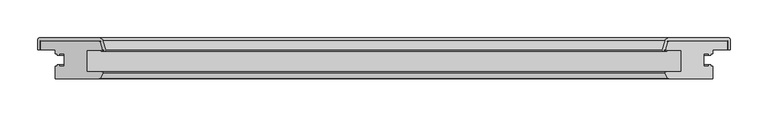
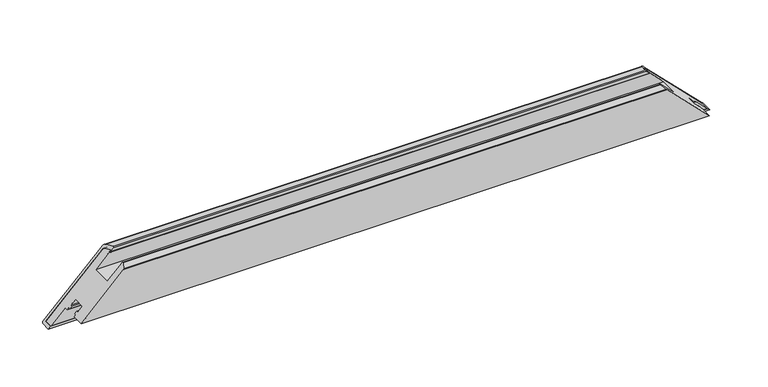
"""IFC4 building model written with IfcOpenShell, lengths in millimetres: proxy geometry, Weiku - Montante - Folha 02.2.01.018 : Weiku - Montante - Folha 02.2.01.018."""

from ifc_helpers import new_model, si_unit, frame, origin, place, context, project, spatial, polyline, ellipse_curve, source, transform, mapped, element, save
from ifc_brep_helpers import plane_surface, cylinder_surface, revolved_surface, advanced_brep


def generic_models_bf77c51b(model_context):
    return source(origin(), model_context, "Body", "AdvancedBrep", [
        advanced_brep(
        [(453.0, 50.0, 0.0), (375.9997332, 50.0, 77.0002668), (-375.9997332, 50.0, 77.0002668), (-453.0, 50.0, 0.0), (373.1019557, 47.7764571, 79.8980443), (-373.1019557, 47.7764571, 79.8980443), (370.5170371, 38.1294095, 82.4829629), (-370.5170371, 38.1294095, 82.4829629), (371.0, 37.5, 82.0), (-371.0, 37.5, 82.0), (371.8560102, 37.5, 81.1439898), (-371.8560102, 37.5, 81.1439898), (371.8560102, 36.5, 81.1439898), (-371.8560102, 36.5, 81.1439898), (367.2425588, 36.5, 85.7574412), (-367.2425588, 36.5, 85.7574412), (366.2766329, 37.758819, 86.7233671), (-366.2766329, 37.758819, 86.7233671), (369.6354501, 50.2940952, 83.3645499), (-369.6354501, 50.2940952, 83.3645499), (374.4650792, 54.0, 78.5349208), (-374.4650792, 54.0, 78.5349208), (454.0, 54.0, -1.0), (-454.0, 54.0, -1.0), (456.0, 52.0, -3.0), (-456.0, 52.0, -3.0), (456.0, 38.5, -3.0), (-456.0, 38.5, -3.0), (453.0, 38.5, 0.0), (-453.0, 38.5, 0.0)],
        [
            (0, 1),
            (1, 2),
            (2, 3),
            (3, 0),
            (1, 4, ellipse_curve(frame((375.9997332, 47.0, 77.0002668), z_axis=(0.7071067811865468, 0.0, 0.7071067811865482), x_axis=(0.7071067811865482, 0.0, -0.7071067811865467)), 4.2426407, 3.0)),
            (4, 5),
            (5, 2, ellipse_curve(frame((-375.9997332, 47.0, 77.0002668), z_axis=(-0.7071067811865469, 0.0, 0.7071067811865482), x_axis=(0.707106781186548, 0.0, 0.7071067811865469)), 4.2426407, 3.0)),
            (4, 6),
            (6, 7),
            (7, 5),
            (6, 8, ellipse_curve(frame((371.0, 38.0, 82.0), z_axis=(0.7071067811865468, 0.0, 0.7071067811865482), x_axis=(0.7071067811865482, 0.0, -0.7071067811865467)), 0.7071068, 0.5)),
            (8, 9),
            (9, 7, ellipse_curve(frame((-371.0, 38.0, 82.0), z_axis=(-0.7071067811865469, 0.0, 0.7071067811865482), x_axis=(0.707106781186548, 0.0, 0.7071067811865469)), 0.7071068, 0.5)),
            (8, 10),
            (10, 11),
            (11, 9),
            (10, 12, ellipse_curve(frame((371.8560102, 37.0, 81.1439898), z_axis=(-0.7071067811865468, 0.0, -0.7071067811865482), x_axis=(-0.7071067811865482, 0.0, 0.7071067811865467)), 0.7071068, 0.5)),
            (12, 13),
            (13, 11, ellipse_curve(frame((-371.8560102, 37.0, 81.1439898), z_axis=(0.7071067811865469, 0.0, -0.7071067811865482), x_axis=(-0.707106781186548, 0.0, -0.7071067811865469)), 0.7071068, 0.5)),
            (12, 14),
            (14, 15),
            (15, 13),
            (14, 16, ellipse_curve(frame((367.2425588, 37.5, 85.7574412), z_axis=(-0.7071067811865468, 0.0, -0.7071067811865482), x_axis=(-0.7071067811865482, 0.0, 0.7071067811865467)), 1.4142136, 1.0)),
            (16, 17),
            (17, 15, ellipse_curve(frame((-367.2425588, 37.5, 85.7574412), z_axis=(0.7071067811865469, 0.0, -0.7071067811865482), x_axis=(-0.707106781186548, 0.0, -0.7071067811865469)), 1.4142136, 1.0)),
            (16, 18),
            (18, 19),
            (19, 17),
            (18, 20, ellipse_curve(frame((374.4650792, 49.0, 78.5349208), z_axis=(-0.7071067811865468, 0.0, -0.7071067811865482), x_axis=(-0.7071067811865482, 0.0, 0.7071067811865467)), 7.0710678, 5.0)),
            (20, 21),
            (21, 19, ellipse_curve(frame((-374.4650792, 49.0, 78.5349208), z_axis=(0.7071067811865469, 0.0, -0.7071067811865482), x_axis=(-0.707106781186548, 0.0, -0.7071067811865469)), 7.0710678, 5.0)),
            (20, 22),
            (22, 23),
            (23, 21),
            (22, 24, ellipse_curve(frame((454.0, 52.0, -1.0), z_axis=(-0.7071067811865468, 0.0, -0.7071067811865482), x_axis=(-0.7071067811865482, 0.0, 0.7071067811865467)), 2.8284271, 2.0)),
            (24, 25),
            (25, 23, ellipse_curve(frame((-454.0, 52.0, -1.0), z_axis=(0.7071067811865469, 0.0, -0.7071067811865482), x_axis=(-0.707106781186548, 0.0, -0.7071067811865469)), 2.8284271, 2.0)),
            (24, 26),
            (26, 27),
            (27, 25),
            (26, 28),
            (28, 29),
            (29, 27),
            (28, 0),
            (3, 29),
        ],
        [
            plane_surface(frame((-473.0, 50.0, 0.0), z_axis=(0.0, -1.0, 0.0), x_axis=(1.0, 0.0, 0.0))),
            revolved_surface(polyline([(378.99973320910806, 50.0, 77.0002668), (-378.99973320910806, 50.0, 77.0002668)]), (-473.0, 47.0, 77.0002668), (1.0, 0.0, 0.0)),
            plane_surface(frame((-473.0, 47.7764571, 79.8980443), z_axis=(0.0, -0.2588190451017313, -0.9659258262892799), x_axis=(1.0, 0.0, 0.0))),
            revolved_surface(polyline([(371.50000001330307, 38.5, 82.0), (-371.5000000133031, 38.5, 82.0)]), (-473.0, 38.0, 82.0), (1.0, 0.0, 0.0)),
            plane_surface(frame((-473.0, 37.5, 82.0), z_axis=(0.0, 1.0, 0.0), x_axis=(1.0, 0.0, 0.0))),
            cylinder_surface(frame((-473.0, 37.0, 81.1439898), z_axis=(-1.0, 0.0, 0.0), x_axis=(0.0, 1.0, 0.0)), 0.5),
            plane_surface(frame((-473.0, 36.5, 81.1439898), z_axis=(0.0, -1.0, 0.0), x_axis=(1.0, 0.0, 0.0))),
            cylinder_surface(frame((-473.0, 37.5, 85.7574412), z_axis=(-1.0, 0.0, 0.0), x_axis=(0.0, 1.0, 0.0)), 1.0),
            plane_surface(frame((-473.0, 37.758819, 86.7233671), z_axis=(0.0, 0.25881904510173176, 0.9659258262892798), x_axis=(1.0, 0.0, 0.0))),
            cylinder_surface(frame((-473.0, 49.0, 78.5349208), z_axis=(-1.0, 0.0, 0.0), x_axis=(0.0, 1.0, 0.0)), 5.0),
            plane_surface(frame((-473.0, 54.0, 78.5349208), z_axis=(0.0, 1.0, 0.0), x_axis=(1.0, 0.0, 0.0))),
            cylinder_surface(frame((-473.0, 52.0, -1.0), z_axis=(-1.0, 0.0, 0.0), x_axis=(0.0, 1.0, 0.0)), 2.0),
            plane_surface(frame((-473.0, 52.0, -3.0), z_axis=(0.0, 0.0, -1.0), x_axis=(1.0, 0.0, 0.0))),
            plane_surface(frame((-473.0, 38.5, -3.0), z_axis=(0.0, -1.0, 0.0), x_axis=(1.0, 0.0, 0.0))),
            plane_surface(frame((-473.0, 38.5, 0.0), z_axis=(0.0, 0.0, 1.0), x_axis=(1.0, 0.0, 0.0))),
            plane_surface(frame((363.0, 0.0, 90.0), z_axis=(0.7071067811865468, 0.0, 0.7071067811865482), x_axis=(0.0, 1.0, 0.0))),
            plane_surface(frame((-481.2842712, 0.0, -28.2842712), z_axis=(-0.7071067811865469, 0.0, 0.7071067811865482), x_axis=(0.0, 1.0, 0.0))),
        ],
        [
            (0, [[1, 2, 3, 4]]),
            (1, [[5, 6, 7, -2]]),
            (2, [[8, 9, 10, -6]]),
            (3, [[11, 12, 13, -9]]),
            (4, [[14, 15, 16, -12]]),
            (5, [[17, 18, 19, -15]]),
            (6, [[20, 21, 22, -18]]),
            (7, [[23, 24, 25, -21]]),
            (8, [[26, 27, 28, -24]]),
            (9, [[29, 30, 31, -27]]),
            (10, [[32, 33, 34, -30]]),
            (11, [[35, 36, 37, -33]]),
            (12, [[38, 39, 40, -36]]),
            (13, [[41, 42, 43, -39]]),
            (14, [[44, -4, 45, -42]]),
            (15, [[-1, -44, -41, -38, -35, -32, -29, -26, -23, -20, -17, -14, -11, -8, -5]]),
            (16, [[-3, -7, -10, -13, -16, -19, -22, -25, -28, -31, -34, -37, -40, -43, -45]]),
        ],
    ),
        advanced_brep(
        [(453.0, 50.0, 0.0), (-453.0, 50.0, 0.0), (-375.9997332, 50.0, 77.0002668), (375.9997332, 50.0, 77.0002668), (453.0, 38.5, 0.0), (-453.0, 38.5, 0.0), (-374.9872264, 0.0, 78.0127736), (-433.0, 0.0, 20.0), (433.0, 0.0, 20.0), (374.9872264, 0.0, 78.0127736), (-433.0, 38.5, 20.0), (-433.0, 33.1, 20.0), (-430.8, 33.1, 22.2), (-430.8, 31.1, 22.2), (-428.0, 31.1, 25.0), (-428.0, 33.1, 25.0), (-421.5, 33.1, 31.5), (-421.5, 16.9, 31.5), (-428.0, 16.9, 25.0), (-428.0, 18.9, 25.0), (-430.8, 18.9, 22.2), (-430.8, 16.9, 22.2), (-433.0, 16.9, 20.0), (-374.0932657, 0.5518546, 78.9067343), (-370.5512796, 7.617411, 82.4487204), (-371.7134285, 9.5, 81.2865715), (-391.5, 9.5, 61.5), (-391.5, 37.5, 61.5), (-371.0, 37.5, 82.0), (-370.5170371, 38.1294095, 82.4829629), (-373.1019557, 47.7764571, 79.8980443), (373.1019557, 47.7764571, 79.8980443), (370.5170371, 38.1294095, 82.4829629), (371.0, 37.5, 82.0), (391.5, 37.5, 61.5), (391.5, 9.5, 61.5), (371.7134285, 9.5, 81.2865715), (370.5512796, 7.617411, 82.4487204), (374.0932657, 0.5518546, 78.9067343), (433.0, 16.9, 20.0), (430.8, 16.9, 22.2), (430.8, 18.9, 22.2), (428.0, 18.9, 25.0), (428.0, 16.9, 25.0), (421.5, 16.9, 31.5), (421.5, 33.1, 31.5), (428.0, 33.1, 25.0), (428.0, 31.1, 25.0), (430.8, 31.1, 22.2), (430.8, 33.1, 22.2), (433.0, 33.1, 20.0), (433.0, 38.5, 20.0)],
        [
            (0, 1),
            (1, 2),
            (2, 3),
            (3, 0),
            (0, 4),
            (4, 5),
            (5, 1),
            (6, 7),
            (7, 8),
            (8, 9),
            (9, 6),
            (5, 10),
            (10, 11),
            (11, 12),
            (12, 13),
            (13, 14),
            (14, 15),
            (15, 16),
            (16, 17),
            (17, 18),
            (18, 19),
            (19, 20),
            (20, 21),
            (21, 22),
            (22, 7),
            (6, 23, ellipse_curve(frame((-374.9872264, 1.0, 78.0127736), z_axis=(-0.7071067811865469, 0.0, 0.7071067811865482), x_axis=(-0.707106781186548, 0.0, -0.7071067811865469)), 1.4142136, 1.0)),
            (23, 24),
            (24, 25, ellipse_curve(frame((-371.7134285, 8.2, 81.2865715), z_axis=(-0.7071067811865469, 0.0, 0.7071067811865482), x_axis=(-0.707106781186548, 0.0, -0.7071067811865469)), 1.8384776, 1.3)),
            (25, 26),
            (26, 27),
            (27, 28),
            (28, 29, ellipse_curve(frame((-371.0, 38.0, 82.0), z_axis=(-0.7071067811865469, 0.0, 0.7071067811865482), x_axis=(-0.707106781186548, 0.0, -0.7071067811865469)), 0.7071068, 0.5)),
            (29, 30),
            (30, 2, ellipse_curve(frame((-375.9997332, 47.0, 77.0002668), z_axis=(-0.7071067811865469, 0.0, 0.7071067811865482), x_axis=(-0.707106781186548, 0.0, -0.7071067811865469)), 4.2426407, 3.0)),
            (3, 31, ellipse_curve(frame((375.9997332, 47.0, 77.0002668), z_axis=(0.7071067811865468, 0.0, 0.7071067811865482), x_axis=(-0.7071067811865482, 0.0, 0.7071067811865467)), 4.2426407, 3.0)),
            (31, 32),
            (32, 33, ellipse_curve(frame((371.0, 38.0, 82.0), z_axis=(0.7071067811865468, 0.0, 0.7071067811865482), x_axis=(-0.7071067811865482, 0.0, 0.7071067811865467)), 0.7071068, 0.5)),
            (33, 34),
            (34, 35),
            (35, 36),
            (36, 37, ellipse_curve(frame((371.7134285, 8.2, 81.2865715), z_axis=(0.7071067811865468, 0.0, 0.7071067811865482), x_axis=(-0.7071067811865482, 0.0, 0.7071067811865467)), 1.8384776, 1.3)),
            (37, 38),
            (38, 9, ellipse_curve(frame((374.9872264, 1.0, 78.0127736), z_axis=(0.7071067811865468, 0.0, 0.7071067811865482), x_axis=(-0.7071067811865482, 0.0, 0.7071067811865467)), 1.4142136, 1.0)),
            (8, 39),
            (39, 40),
            (40, 41),
            (41, 42),
            (42, 43),
            (43, 44),
            (44, 45),
            (45, 46),
            (46, 47),
            (47, 48),
            (48, 49),
            (49, 50),
            (50, 51),
            (51, 4),
            (38, 23),
            (37, 24),
            (36, 25),
            (35, 26),
            (34, 27),
            (33, 28),
            (32, 29),
            (31, 30),
            (51, 10),
            (50, 11),
            (49, 12),
            (48, 13),
            (47, 14),
            (46, 15),
            (45, 16),
            (44, 17),
            (43, 18),
            (42, 19),
            (41, 20),
            (40, 21),
            (39, 22),
        ],
        [
            plane_surface(frame((-453.0, 50.0, 77.0002668), z_axis=(0.0, 1.0, 0.0), x_axis=(1.0, 0.0, 0.0))),
            plane_surface(frame((-453.0, 50.0, 0.0), z_axis=(0.0, 0.0, -1.0), x_axis=(1.0, 0.0, 0.0))),
            plane_surface(frame((-453.0, 0.0, 20.0), z_axis=(0.0, -1.0, 0.0), x_axis=(1.0, 0.0, 0.0))),
            plane_surface(frame((-481.2842712, 0.0, -28.2842712), z_axis=(-0.7071067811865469, 0.0, 0.7071067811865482), x_axis=(0.0, 1.0, 0.0))),
            plane_surface(frame((363.0, 0.0, 90.0), z_axis=(0.7071067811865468, 0.0, 0.7071067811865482), x_axis=(0.0, 1.0, 0.0))),
            cylinder_surface(frame((-453.0, 1.0, 78.0127736), z_axis=(-1.0, 0.0, 0.0), x_axis=(0.0, 1.0, 0.0)), 1.0),
            plane_surface(frame((-453.0, 0.5518546, 78.9067343), z_axis=(0.0, -0.4481453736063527, 0.8939606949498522), x_axis=(1.0, 0.0, 0.0))),
            cylinder_surface(frame((-453.0, 8.2, 81.2865715), z_axis=(-1.0, 0.0, 0.0), x_axis=(0.0, 1.0, 0.0)), 1.3),
            plane_surface(frame((-453.0, 9.5, 81.2865715), z_axis=(0.0, 1.0, 0.0), x_axis=(1.0, 0.0, 0.0))),
            plane_surface(frame((-453.0, 9.5, 61.5), z_axis=(0.0, 0.0, 1.0), x_axis=(1.0, 0.0, 0.0))),
            plane_surface(frame((-453.0, 37.5, 61.5), z_axis=(0.0, -1.0, 0.0), x_axis=(1.0, 0.0, 0.0))),
            cylinder_surface(frame((-453.0, 38.0, 82.0), z_axis=(-1.0, 0.0, 0.0), x_axis=(0.0, 1.0, 0.0)), 0.5),
            plane_surface(frame((-453.0, 38.1294095, 82.4829629), z_axis=(0.0, 0.2588190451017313, 0.9659258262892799), x_axis=(1.0, 0.0, 0.0))),
            cylinder_surface(frame((-453.0, 47.0, 77.0002668), z_axis=(-1.0, 0.0, 0.0), x_axis=(0.0, 1.0, 0.0)), 3.0),
            plane_surface(frame((-453.0, 38.5, 0.0), z_axis=(0.0, -1.0, 0.0), x_axis=(1.0, 0.0, 0.0))),
            plane_surface(frame((-453.0, 38.5, 20.0), z_axis=(0.0, 0.0, -1.0), x_axis=(1.0, 0.0, 0.0))),
            plane_surface(frame((-453.0, 33.1, 20.0), z_axis=(0.0, -1.0, 0.0), x_axis=(1.0, 0.0, 0.0))),
            plane_surface(frame((-453.0, 33.1, 22.2), z_axis=(0.0, 0.0, -1.0), x_axis=(1.0, 0.0, 0.0))),
            plane_surface(frame((-453.0, 31.1, 22.2), z_axis=(0.0, -1.0, 0.0), x_axis=(1.0, 0.0, 0.0))),
            plane_surface(frame((-453.0, 31.1, 25.0), z_axis=(0.0, 0.0, 1.0), x_axis=(1.0, 0.0, 0.0))),
            plane_surface(frame((-453.0, 33.1, 25.0), z_axis=(0.0, -1.0, 0.0), x_axis=(1.0, 0.0, 0.0))),
            plane_surface(frame((-453.0, 33.1, 31.5), z_axis=(0.0, 0.0, -1.0), x_axis=(1.0, 0.0, 0.0))),
            plane_surface(frame((-453.0, 16.9, 31.5), z_axis=(0.0, 1.0, 0.0), x_axis=(1.0, 0.0, 0.0))),
            plane_surface(frame((-453.0, 16.9, 25.0), z_axis=(0.0, 0.0, 1.0), x_axis=(1.0, 0.0, 0.0))),
            plane_surface(frame((-453.0, 18.9, 25.0), z_axis=(0.0, 1.0, 0.0), x_axis=(1.0, 0.0, 0.0))),
            plane_surface(frame((-453.0, 18.9, 22.2), z_axis=(0.0, 0.0, -1.0), x_axis=(1.0, 0.0, 0.0))),
            plane_surface(frame((-453.0, 16.9, 22.2), z_axis=(0.0, 1.0, 0.0), x_axis=(1.0, 0.0, 0.0))),
            plane_surface(frame((-453.0, 16.9, 20.0), z_axis=(0.0, 0.0, -1.0), x_axis=(1.0, 0.0, 0.0))),
        ],
        [
            (0, [[1, 2, 3, 4]]),
            (1, [[-1, 5, 6, 7]]),
            (2, [[8, 9, 10, 11]]),
            (3, [[-2, -7, 12, 13, 14, 15, 16, 17, 18, 19, 20, 21, 22, 23, 24, 25, -8, 26, 27, 28, 29, 30, 31, 32, 33, 34]]),
            (4, [[-4, 35, 36, 37, 38, 39, 40, 41, 42, 43, -10, 44, 45, 46, 47, 48, 49, 50, 51, 52, 53, 54, 55, 56, 57, -5]]),
            (5, [[-26, -11, -43, 58]]),
            (6, [[-27, -58, -42, 59]]),
            (7, [[-28, -59, -41, 60]]),
            (8, [[-29, -60, -40, 61]]),
            (9, [[-30, -61, -39, 62]]),
            (10, [[-31, -62, -38, 63]]),
            (11, [[-32, -63, -37, 64]]),
            (12, [[-33, -64, -36, 65]]),
            (13, [[-34, -65, -35, -3]]),
            (14, [[-6, -57, 66, -12]]),
            (15, [[-13, -66, -56, 67]]),
            (16, [[-14, -67, -55, 68]]),
            (17, [[-15, -68, -54, 69]]),
            (18, [[-16, -69, -53, 70]]),
            (19, [[-17, -70, -52, 71]]),
            (20, [[-18, -71, -51, 72]]),
            (21, [[-19, -72, -50, 73]]),
            (22, [[-20, -73, -49, 74]]),
            (23, [[-21, -74, -48, 75]]),
            (24, [[-22, -75, -47, 76]]),
            (25, [[-23, -76, -46, 77]]),
            (26, [[-24, -77, -45, 78]]),
            (27, [[-25, -78, -44, -9]]),
        ],
    ),
    ])


if __name__ == "__main__":
    model = new_model("IFC4")
    model_context = context("Model", 3, world=origin())
    ifc_project = project(units=[si_unit("LENGTHUNIT", "METRE", prefix="MILLI")], contexts=[model_context])
    site = spatial("IfcSite", under=ifc_project)
    building = spatial("IfcBuilding", under=site)
    placement = place(None, origin())
    generic_models_shape = generic_models_bf77c51b(model_context)
    element("IfcBuildingElementProxy", 1, Name="Weiku - Montante - Folha 02.2.01.018 : Weiku - Montante - Folha 02.2.01.018", ObjectType="Weiku - Montante - Folha 02.2.01.018 : Weiku - Montante - Folha 02.2.01.018", at=placement, inside=building, context=model_context, shape_type="MappedRepresentation", body=[
        mapped(generic_models_shape, transform((0.0, 0.0, 0.0), x_axis=(1.0, 0.0, 0.0), y_axis=(0.0, 1.0, 0.0), z_axis=(0.0, 0.0, 1.0))),
    ])
    save(model, "model.ifc")
